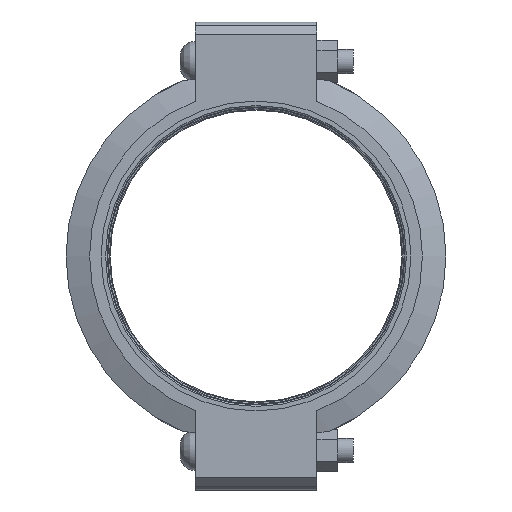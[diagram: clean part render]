
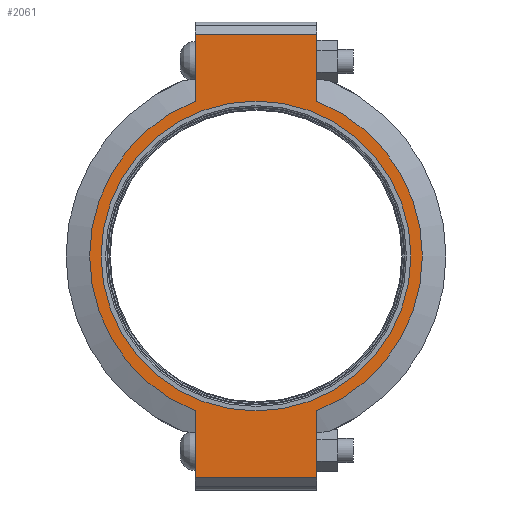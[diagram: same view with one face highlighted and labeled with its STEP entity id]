
A CAD part, left-side view. The second image highlights one B-rep face of the part: STEP entity #2061.
In plain terms, the highlighted planar face has unit normal (-1, 0, 0) as drawn and (0, 0, 1) by its records, which use the part's own axes.
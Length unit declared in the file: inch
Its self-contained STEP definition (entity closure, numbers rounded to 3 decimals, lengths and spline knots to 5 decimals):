
#170=LINE('',#3626,#263);
#181=LINE('',#3677,#274);
#187=LINE('',#3703,#280);
#189=LINE('',#3706,#282);
#190=LINE('',#3711,#283);
#191=LINE('',#3712,#284);
#263=VECTOR('',#2953,0.3937);
#274=VECTOR('',#2984,0.3937);
#280=VECTOR('',#3002,0.3937);
#282=VECTOR('',#3006,0.3937);
#283=VECTOR('',#3011,0.3937);
#284=VECTOR('',#3012,0.3937);
#347=FACE_BOUND('',#600,.T.);
#390=PLANE('',#2407);
#477=FACE_OUTER_BOUND('',#599,.T.);
#599=EDGE_LOOP('',(#1734,#1735,#1736,#1737,#1738,#1739,#1740,#1741));
#600=EDGE_LOOP('',(#1742));
#784=CIRCLE('',#2408,6.84375);
#785=CIRCLE('',#2409,6.84375);
#786=CIRCLE('',#2410,6.375);
#956=VERTEX_POINT('',#3623);
#957=VERTEX_POINT('',#3625);
#974=VERTEX_POINT('',#3672);
#975=VERTEX_POINT('',#3676);
#982=VERTEX_POINT('',#3698);
#983=VERTEX_POINT('',#3702);
#984=VERTEX_POINT('',#3708);
#985=VERTEX_POINT('',#3710);
#986=VERTEX_POINT('',#3714);
#1211=EDGE_CURVE('',#957,#956,#170,.T.);
#1232=EDGE_CURVE('',#975,#974,#181,.T.);
#1243=EDGE_CURVE('',#983,#982,#187,.T.);
#1245=EDGE_CURVE('',#983,#956,#189,.T.);
#1246=EDGE_CURVE('',#982,#984,#784,.T.);
#1247=EDGE_CURVE('',#984,#985,#190,.T.);
#1248=EDGE_CURVE('',#975,#985,#191,.T.);
#1249=EDGE_CURVE('',#974,#957,#785,.T.);
#1250=EDGE_CURVE('',#986,#986,#786,.T.);
#1734=ORIENTED_EDGE('',*,*,#1245,.F.);
#1735=ORIENTED_EDGE('',*,*,#1243,.T.);
#1736=ORIENTED_EDGE('',*,*,#1246,.T.);
#1737=ORIENTED_EDGE('',*,*,#1247,.T.);
#1738=ORIENTED_EDGE('',*,*,#1248,.F.);
#1739=ORIENTED_EDGE('',*,*,#1232,.T.);
#1740=ORIENTED_EDGE('',*,*,#1249,.T.);
#1741=ORIENTED_EDGE('',*,*,#1211,.T.);
#1742=ORIENTED_EDGE('',*,*,#1250,.T.);
#2061=ADVANCED_FACE('',(#477,#347),#390,.T.);
#2407=AXIS2_PLACEMENT_3D('',#3707,#3007,#3008);
#2408=AXIS2_PLACEMENT_3D('',#3709,#3009,#3010);
#2409=AXIS2_PLACEMENT_3D('',#3713,#3013,#3014);
#2410=AXIS2_PLACEMENT_3D('',#3715,#3015,#3016);
#2953=DIRECTION('',(1.,0.,0.));
#2984=DIRECTION('',(1.,0.,0.));
#3002=DIRECTION('',(-1.,0.,0.));
#3006=DIRECTION('',(0.,-1.,0.));
#3007=DIRECTION('center_axis',(0.,0.,1.));
#3008=DIRECTION('ref_axis',(-1.,0.,0.));
#3009=DIRECTION('center_axis',(0.,0.,1.));
#3010=DIRECTION('ref_axis',(1.,0.,0.));
#3011=DIRECTION('',(-1.,0.,0.));
#3012=DIRECTION('',(0.,1.,0.));
#3013=DIRECTION('center_axis',(0.,0.,1.));
#3014=DIRECTION('ref_axis',(1.,0.,0.));
#3015=DIRECTION('center_axis',(0.,0.,-1.));
#3016=DIRECTION('ref_axis',(1.,0.,0.));
#3623=CARTESIAN_POINT('',(9.125,-2.5,1.315));
#3625=CARTESIAN_POINT('',(6.37079,-2.5,1.315));
#3626=CARTESIAN_POINT('',(-9.625,-2.5,1.315));
#3672=CARTESIAN_POINT('',(-6.37079,-2.5,1.315));
#3676=CARTESIAN_POINT('',(-9.125,-2.5,1.315));
#3677=CARTESIAN_POINT('',(-9.625,-2.5,1.315));
#3698=CARTESIAN_POINT('',(6.37079,2.5,1.315));
#3702=CARTESIAN_POINT('',(9.125,2.5,1.315));
#3703=CARTESIAN_POINT('',(9.625,2.5,1.315));
#3706=CARTESIAN_POINT('',(9.125,-1.25,1.315));
#3707=CARTESIAN_POINT('Origin',(0.,0.,
1.315));
#3708=CARTESIAN_POINT('',(-6.37079,2.5,1.315));
#3709=CARTESIAN_POINT('Origin',(0.,0.,1.315));
#3710=CARTESIAN_POINT('',(-9.125,2.5,1.315));
#3711=CARTESIAN_POINT('',(9.625,2.5,1.315));
#3712=CARTESIAN_POINT('',(-9.125,1.25,1.315));
#3713=CARTESIAN_POINT('Origin',(0.,0.,1.315));
#3714=CARTESIAN_POINT('',(-6.375,0.,1.315));
#3715=CARTESIAN_POINT('Origin',(0.,0.,1.315));
